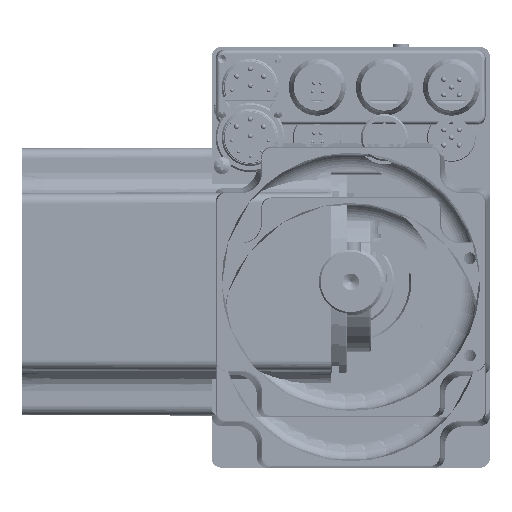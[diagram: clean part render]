
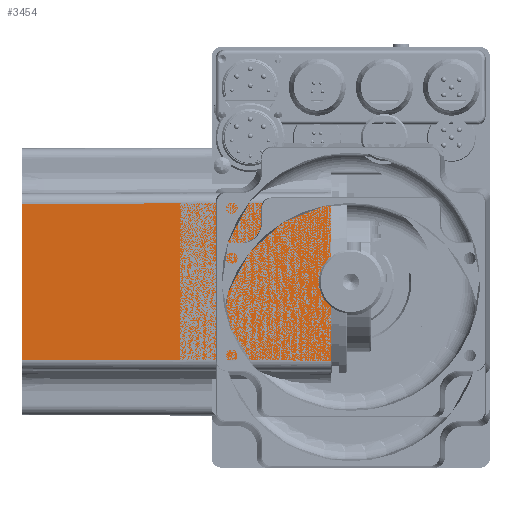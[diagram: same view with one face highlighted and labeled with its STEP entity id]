
A CAD part, front view. The second image highlights one B-rep face of the part: STEP entity #3454.
In plain terms, the highlighted planar face has unit normal (-0.003, -1, 0).
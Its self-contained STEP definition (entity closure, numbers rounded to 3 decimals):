
#3454 = ADVANCED_FACE( '', ( #8386 ), #8387, .T. );
#8386 = FACE_OUTER_BOUND( '', #19161, .T. );
#8387 = PLANE( '', #19162 );
#19161 = EDGE_LOOP( '', ( #34647, #34648, #34649, #34650 ) );
#19162 = AXIS2_PLACEMENT_3D( '', #34651, #34652, #34653 );
#34647 = ORIENTED_EDGE( '', *, *, #45978, .T. );
#34648 = ORIENTED_EDGE( '', *, *, #44199, .T. );
#34649 = ORIENTED_EDGE( '', *, *, #44601, .T. );
#34650 = ORIENTED_EDGE( '', *, *, #45831, .T. );
#34651 = CARTESIAN_POINT( '', ( -5., -40., 0. ) );
#34652 = DIRECTION( '', ( -0.003, -1., 0. ) );
#34653 = DIRECTION( '', ( 1., -0.003, 0. ) );
#44199 = EDGE_CURVE( '', #50899, #50897, #50900, .T. );
#44601 = EDGE_CURVE( '', #50897, #51591, #51592, .T. );
#45831 = EDGE_CURVE( '', #51591, #53496, #53498, .T. );
#45978 = EDGE_CURVE( '', #53496, #50899, #53711, .T. );
#50897 = VERTEX_POINT( '', #69331 );
#50899 = VERTEX_POINT( '', #69333 );
#50900 = LINE( '', #69334, #69335 );
#51591 = VERTEX_POINT( '', #70530 );
#51592 = LINE( '', #70531, #70532 );
#53496 = VERTEX_POINT( '', #73765 );
#53498 = LINE( '', #73767, #73768 );
#53711 = LINE( '', #74110, #74111 );
#69331 = CARTESIAN_POINT( '', ( -6., -39.997, 23.497 ) );
#69333 = CARTESIAN_POINT( '', ( -6., -39.997, -23.497 ) );
#69334 = CARTESIAN_POINT( '', ( -6., -39.997, 0. ) );
#69335 = VECTOR( '', #81665, 1000. );
#70530 = CARTESIAN_POINT( '', ( -98., -39.729, 23.229 ) );
#70531 = CARTESIAN_POINT( '', ( -98.991, -39.727, 23.227 ) );
#70532 = VECTOR( '', #82270, 1000. );
#73765 = CARTESIAN_POINT( '', ( -98., -39.729, -23.229 ) );
#73767 = CARTESIAN_POINT( '', ( -98., -39.729, 0. ) );
#73768 = VECTOR( '', #84035, 1000. );
#74110 = CARTESIAN_POINT( '', ( -4.991, -40., -23.5 ) );
#74111 = VECTOR( '', #84233, 1000. );
#81665 = DIRECTION( '', ( 0., 0., 1. ) );
#82270 = DIRECTION( '', ( -1., 0.003, -0.003 ) );
#84035 = DIRECTION( '', ( 0., 0., -1. ) );
#84233 = DIRECTION( '', ( 1., -0.003, -0.003 ) );
